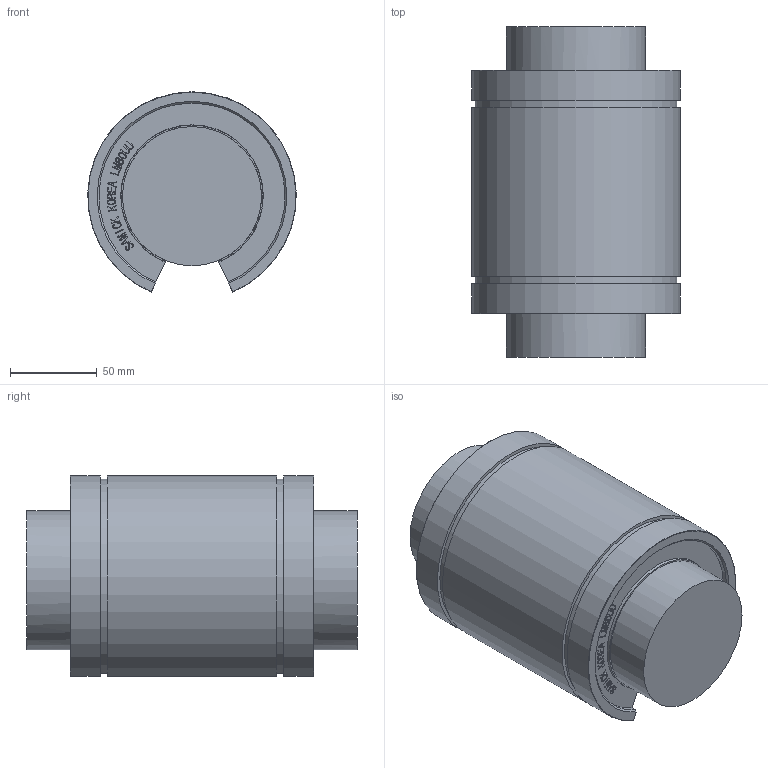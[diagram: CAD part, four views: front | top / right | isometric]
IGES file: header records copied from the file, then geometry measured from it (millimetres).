
Global section: file name: No Iges File Name specified; native system: Autodesk Inventor 2012; preprocessor: AutoDesk Inventor Iges Exporter R2012; author: user2; date: 20130206.154902; units: millimetre
Bounding box: 119.95 x 190 x 115.22 mm (x, y, z)
Volume: 1693513 mm3; surface area: 95254.5 mm2
Topology: 1 solids, 1 shells, 850 faces, 2400 edges, 1600 vertices
Faces by surface type: bspline 612, plane 224, cylinder 6, revolution 4, cone 2, torus 2
Full cylindrical faces by diameter (mm): 80 x1
